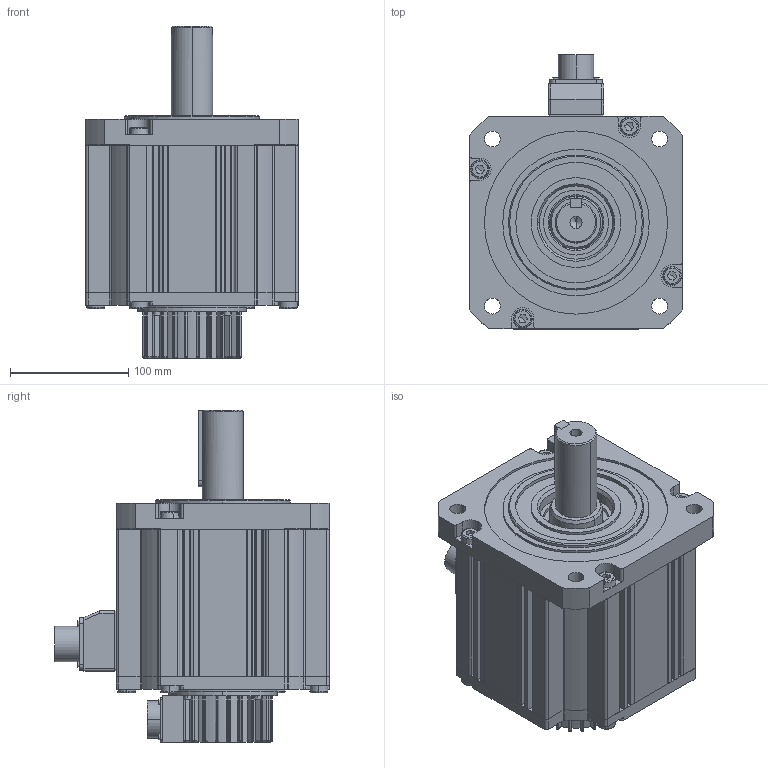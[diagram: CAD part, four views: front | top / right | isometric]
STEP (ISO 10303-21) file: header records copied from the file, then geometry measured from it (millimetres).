
FILE_DESCRIPTION (( 'STEP AP203' ), '1' );
FILE_NAME ('R180-3000W.STEP', '2018-09-11T10:41:58', ( '1' ), ( 'MideaGroup IT' ), 'SwSTEP 2.0', 'SolidWorks 2012', '' );
FILE_SCHEMA (( 'CONFIG_CONTROL_DESIGN' ));
Products named in the file (21): R180-3000W; M3X10_GB_FASTENER_SCREWS_HSHCS M3X10-C; M2.6X7_GB_CROSS_SCREWS_TYPE3 M2.5X6-6-N; GB_HEXAGON_TYPE21 M10X16-16-N_GB_HEXAGON_TYPE21 M10X16-16-N; す瑩-10X8X65; 130-綴裔; 綴裔躇猾菜; 晤鎢ん瑤脣; 侜督萇儂窒璃; 蛌赽軞傖; 綴傷裔-0018; deep groove ball bearings gb_Rolling bearings 6209 GB 276-94; 蛌赽郪璃; 180-粣; 180-ヶ傷裔; 隅赽軞傖; 踡隅蹟隊M8; 萇埭盄瑤脣; 180-瑤脣; 瑤脣釱躇猾菜; 180-儂褲
Assembly tree (37 placements, depth 5):
  R180-3000W
    侜督萇儂窒璃
      隅赽軞傖
        180-儂褲
        瑤脣釱躇猾菜
        180-瑤脣
        萇埭盄瑤脣
        踡隅蹟隊M8
      180-ヶ傷裔
      蛌赽軞傖
        蛌赽郪璃
          180-粣
        deep groove ball bearings gb_Rolling bearings 6209 GB 276-94
        綴傷裔-0018
    晤鎢ん瑤脣
    綴裔躇猾菜
    130-綴裔
    す瑩-10X8X65
    GB_HEXAGON_TYPE21 M10X16-16-N_GB_HEXAGON_TYPE21 M10X16-16-N  x8
    M2.6X7_GB_CROSS_SCREWS_TYPE3 M2.5X6-6-N  x8
    M3X10_GB_FASTENER_SCREWS_HSHCS M3X10-C  x4
Bounding box: 180 x 232.15 x 281 mm (x, y, z)
Volume: 4202450.3 mm3; surface area: 574208.6 mm2
Topology: 34 solids, 34 shells, 2057 faces, 5540 edges, 3571 vertices
Faces by surface type: plane 802, cylinder 783, bspline 155, sphere 138, torus 112, cone 67
Entity records: 65316 total; most frequent: CARTESIAN_POINT 19958, ORIENTED_EDGE 9000, DIRECTION 8835, EDGE_CURVE 4500, AXIS2_PLACEMENT_3D 3316, VERTEX_POINT 2929, LINE 2203, VECTOR 2203
